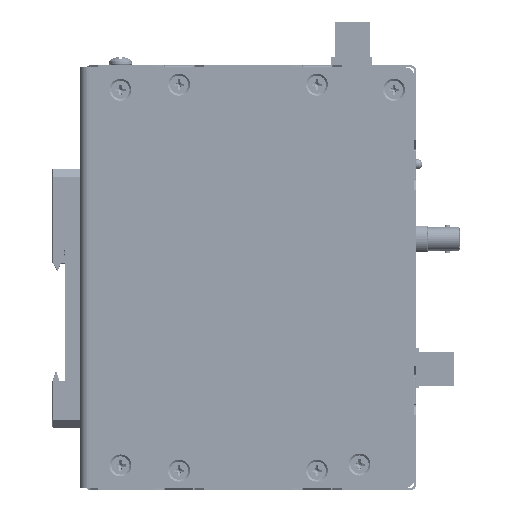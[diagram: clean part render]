
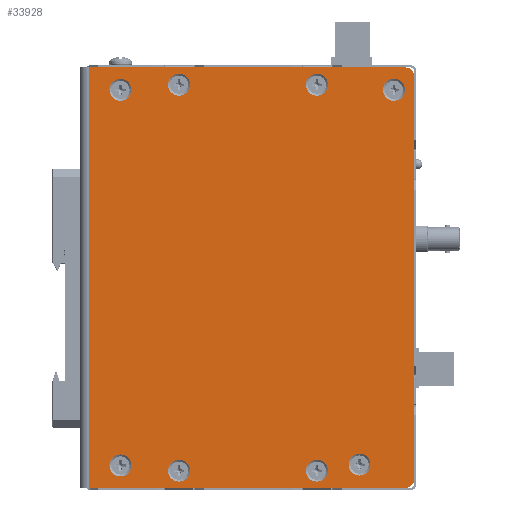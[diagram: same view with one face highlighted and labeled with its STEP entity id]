
A CAD part, left-side view. The second image highlights one B-rep face of the part: STEP entity #33928.
In plain terms, the highlighted planar face has unit normal (-1, 0, 0).
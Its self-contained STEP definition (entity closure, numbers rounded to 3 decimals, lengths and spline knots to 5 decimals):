
#1702=CIRCLE('',#38717,0.00324);
#1703=CIRCLE('',#38718,0.00324);
#1704=CIRCLE('',#38719,0.00324);
#1705=CIRCLE('',#38720,0.00324);
#1706=CIRCLE('',#38721,0.00324);
#1707=CIRCLE('',#38722,0.00324);
#1708=CIRCLE('',#38723,0.00324);
#1709=CIRCLE('',#38724,0.00324);
#1710=CIRCLE('',#38725,0.00254);
#1711=CIRCLE('',#38726,0.00254);
#3472=LINE('',#56874,#6502);
#3476=LINE('',#56883,#6506);
#3482=LINE('',#56897,#6512);
#3484=LINE('',#56919,#6514);
#6502=VECTOR('',#42920,1.);
#6506=VECTOR('',#42926,1.);
#6512=VECTOR('',#42934,1.);
#6514=VECTOR('',#42958,1.);
#10959=ORIENTED_EDGE('',*,*,#19679,.F.);
#10960=ORIENTED_EDGE('',*,*,#19680,.F.);
#10961=ORIENTED_EDGE('',*,*,#19681,.F.);
#10962=ORIENTED_EDGE('',*,*,#19682,.F.);
#10963=ORIENTED_EDGE('',*,*,#19683,.F.);
#10964=ORIENTED_EDGE('',*,*,#19684,.F.);
#10965=ORIENTED_EDGE('',*,*,#19685,.F.);
#10966=ORIENTED_EDGE('',*,*,#19686,.F.);
#10967=ORIENTED_EDGE('',*,*,#19677,.F.);
#10968=ORIENTED_EDGE('',*,*,#19687,.T.);
#10969=ORIENTED_EDGE('',*,*,#19667,.T.);
#10970=ORIENTED_EDGE('',*,*,#19688,.T.);
#10971=ORIENTED_EDGE('',*,*,#19671,.T.);
#10972=ORIENTED_EDGE('',*,*,#19689,.F.);
#19667=EDGE_CURVE('',#24254,#24255,#3472,.T.);
#19671=EDGE_CURVE('',#24258,#24259,#3476,.T.);
#19677=EDGE_CURVE('',#24264,#24265,#3482,.T.);
#19679=EDGE_CURVE('',#24266,#24266,#1702,.T.);
#19680=EDGE_CURVE('',#24267,#24267,#1703,.T.);
#19681=EDGE_CURVE('',#24268,#24268,#1704,.T.);
#19682=EDGE_CURVE('',#24269,#24269,#1705,.T.);
#19683=EDGE_CURVE('',#24270,#24270,#1706,.T.);
#19684=EDGE_CURVE('',#24271,#24271,#1707,.T.);
#19685=EDGE_CURVE('',#24272,#24272,#1708,.T.);
#19686=EDGE_CURVE('',#24273,#24273,#1709,.T.);
#19687=EDGE_CURVE('',#24264,#24254,#1710,.T.);
#19688=EDGE_CURVE('',#24255,#24258,#1711,.T.);
#19689=EDGE_CURVE('',#24265,#24259,#3484,.F.);
#24254=VERTEX_POINT('',#56875);
#24255=VERTEX_POINT('',#56876);
#24258=VERTEX_POINT('',#56884);
#24259=VERTEX_POINT('',#56885);
#24264=VERTEX_POINT('',#56896);
#24265=VERTEX_POINT('',#56898);
#24266=VERTEX_POINT('',#56902);
#24267=VERTEX_POINT('',#56904);
#24268=VERTEX_POINT('',#56906);
#24269=VERTEX_POINT('',#56908);
#24270=VERTEX_POINT('',#56910);
#24271=VERTEX_POINT('',#56912);
#24272=VERTEX_POINT('',#56914);
#24273=VERTEX_POINT('',#56916);
#27536=EDGE_LOOP('',(#10959));
#27537=EDGE_LOOP('',(#10960));
#27538=EDGE_LOOP('',(#10961));
#27539=EDGE_LOOP('',(#10962));
#27540=EDGE_LOOP('',(#10963));
#27541=EDGE_LOOP('',(#10964));
#27542=EDGE_LOOP('',(#10965));
#27543=EDGE_LOOP('',(#10966));
#27544=EDGE_LOOP('',(#10967,#10968,#10969,#10970,#10971,#10972));
#30212=FACE_BOUND('',#27536,.T.);
#30213=FACE_BOUND('',#27537,.T.);
#30214=FACE_BOUND('',#27538,.T.);
#30215=FACE_BOUND('',#27539,.T.);
#30216=FACE_BOUND('',#27540,.T.);
#30217=FACE_BOUND('',#27541,.T.);
#30218=FACE_BOUND('',#27542,.T.);
#30219=FACE_BOUND('',#27543,.T.);
#30220=FACE_BOUND('',#27544,.T.);
#32717=PLANE('',#38716);
#33928=ADVANCED_FACE('',(#30212,#30213,#30214,#30215,#30216,#30217,#30218,
#30219,#30220),#32717,.T.);
#38716=AXIS2_PLACEMENT_3D('',#56900,#42936,#42937);
#38717=AXIS2_PLACEMENT_3D('',#56901,#42938,#42939);
#38718=AXIS2_PLACEMENT_3D('',#56903,#42940,#42941);
#38719=AXIS2_PLACEMENT_3D('',#56905,#42942,#42943);
#38720=AXIS2_PLACEMENT_3D('',#56907,#42944,#42945);
#38721=AXIS2_PLACEMENT_3D('',#56909,#42946,#42947);
#38722=AXIS2_PLACEMENT_3D('',#56911,#42948,#42949);
#38723=AXIS2_PLACEMENT_3D('',#56913,#42950,#42951);
#38724=AXIS2_PLACEMENT_3D('',#56915,#42952,#42953);
#38725=AXIS2_PLACEMENT_3D('',#56917,#42954,#42955);
#38726=AXIS2_PLACEMENT_3D('',#56918,#42956,#42957);
#42920=DIRECTION('',(0.,0.,1.));
#42926=DIRECTION('',(0.,1.,0.));
#42934=DIRECTION('',(0.,1.,0.));
#42936=DIRECTION('',(-1.,0.,0.));
#42937=DIRECTION('',(0.,0.,1.));
#42938=DIRECTION('',(-1.,0.,0.));
#42939=DIRECTION('',(0.,0.,1.));
#42940=DIRECTION('',(-1.,0.,0.));
#42941=DIRECTION('',(0.,0.,1.));
#42942=DIRECTION('',(-1.,0.,0.));
#42943=DIRECTION('',(0.,0.,1.));
#42944=DIRECTION('',(-1.,0.,0.));
#42945=DIRECTION('',(0.,0.,1.));
#42946=DIRECTION('',(-1.,0.,0.));
#42947=DIRECTION('',(0.,0.,1.));
#42948=DIRECTION('',(-1.,0.,0.));
#42949=DIRECTION('',(0.,0.,1.));
#42950=DIRECTION('',(-1.,0.,0.));
#42951=DIRECTION('',(0.,0.,1.));
#42952=DIRECTION('',(-1.,0.,0.));
#42953=DIRECTION('',(0.,0.,1.));
#42954=DIRECTION('',(-1.,0.,0.));
#42955=DIRECTION('',(0.,0.,1.));
#42956=DIRECTION('',(-1.,0.,0.));
#42957=DIRECTION('',(0.,0.,1.));
#42958=DIRECTION('',(0.,0.,-1.));
#56874=CARTESIAN_POINT('',(-0.01524,-0.09703,0.));
#56875=CARTESIAN_POINT('',(-0.01524,-0.09703,-0.05944));
#56876=CARTESIAN_POINT('',(-0.01524,-0.09703,0.05944));
#56883=CARTESIAN_POINT('',(-0.01524,-0.09703,0.06198));
#56884=CARTESIAN_POINT('',(-0.01524,-0.09449,0.06198));
#56885=CARTESIAN_POINT('',(-0.01524,-0.00102,0.06198));
#56896=CARTESIAN_POINT('',(-0.01524,-0.09449,-0.06198));
#56897=CARTESIAN_POINT('',(-0.01524,-0.09703,-0.06198));
#56898=CARTESIAN_POINT('',(-0.01524,-0.00102,-0.06198));
#56900=CARTESIAN_POINT('',(-0.01524,-0.09703,0.));
#56901=CARTESIAN_POINT('',(-0.01524,-0.02769,0.0569));
#56902=CARTESIAN_POINT('',(-0.01524,-0.02769,0.06013));
#56903=CARTESIAN_POINT('',(-0.01524,-0.06833,0.0569));
#56904=CARTESIAN_POINT('',(-0.01524,-0.06833,0.06013));
#56905=CARTESIAN_POINT('',(-0.01524,-0.09106,0.05537));
#56906=CARTESIAN_POINT('',(-0.01524,-0.09106,0.05861));
#56907=CARTESIAN_POINT('',(-0.01524,-0.0809,-0.05512));
#56908=CARTESIAN_POINT('',(-0.01524,-0.0809,-0.05188));
#56909=CARTESIAN_POINT('',(-0.01524,-0.06833,-0.0569));
#56910=CARTESIAN_POINT('',(-0.01524,-0.06833,-0.05366));
#56911=CARTESIAN_POINT('',(-0.01524,-0.02769,-0.0569));
#56912=CARTESIAN_POINT('',(-0.01524,-0.02769,-0.05366));
#56913=CARTESIAN_POINT('',(-0.01524,-0.01041,-0.05537));
#56914=CARTESIAN_POINT('',(-0.01524,-0.01041,-0.05213));
#56915=CARTESIAN_POINT('',(-0.01524,-0.01041,0.05537));
#56916=CARTESIAN_POINT('',(-0.01524,-0.01041,0.05861));
#56917=CARTESIAN_POINT('',(-0.01524,-0.09449,-0.05944));
#56918=CARTESIAN_POINT('',(-0.01524,-0.09449,0.05944));
#56919=CARTESIAN_POINT('',(-0.01524,-0.00102,0.));
